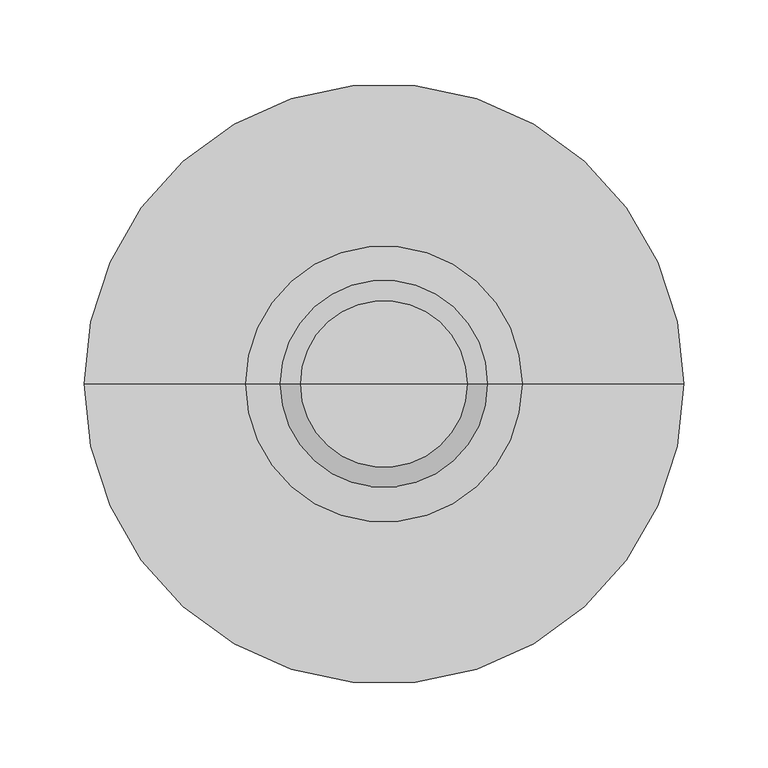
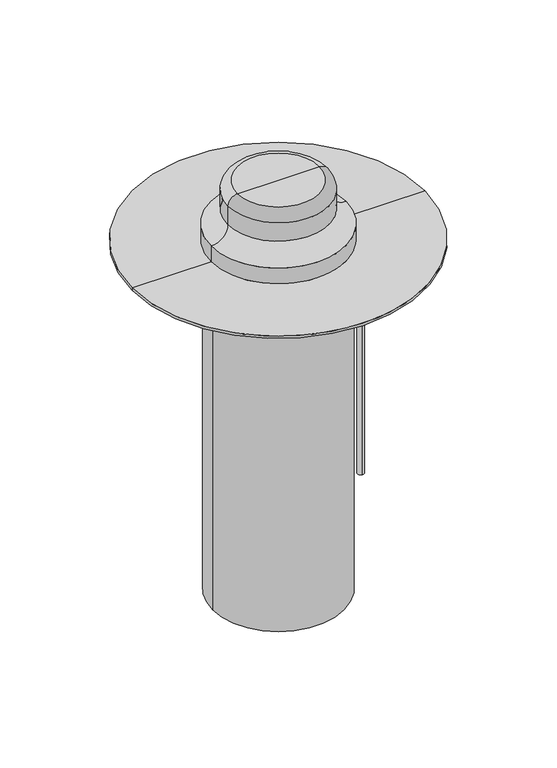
"""IFC4 building model written with IfcOpenShell, lengths in millimetres: flow terminal geometry, BIMLIB_Воронка_Кровельная_Fachmann_VMO : 160х450."""

from ifc_helpers import new_model, si_unit, point, frame, frame_2d, origin, origin_with_axes, place, context, project, spatial, polyline, circle_curve, ellipse_curve, trimmed, segment, composite_curve, outline, extrude, source, transform, mapped, element, save
from ifc_brep_helpers import plane_surface, cylinder_surface, revolved_surface, advanced_brep


def flow_terminal_25bab8c1(model_context):
    return source(origin(), model_context, "Body", "SolidModel", [
        extrude(outline(composite_curve([segment(trimmed(circle_curve(frame_2d((100.0, 0.0)), 4.0), [point((100.0, 4.0))], [point((100.0, -4.0))], False, "CARTESIAN"), True, "CONTINUOUS"), segment(trimmed(circle_curve(frame_2d((100.0, 0.0)), 4.0), [point((100.0, -4.0))], [point((100.0, 4.0))], False, "CARTESIAN"), True, "CONTINUOUS")], self_intersect=False)), frame((0.0, 0.0, -332.0), z_axis=(0.0, 0.0, 1.0), x_axis=(1.0, 0.0, 0.0)), (0.0, 0.0, 1.0), 300.0),
        advanced_brep(
        [(80.0, 0.0, -445.0), (-80.0, 0.0, -445.0), (-80.0, 0.0, -57.0), (80.0, 0.0, -57.0), (-113.0, 0.0, -9.0), (113.0, 0.0, -9.0), (113.0, 0.0, -32.0), (-113.0, 0.0, -32.0), (0.0, 0.0, 0.0), (138.0, 0.0, 0.0), (-138.0, 0.0, 0.0), (-90.0, 0.0, -32.0), (90.0, 0.0, -32.0), (90.0, 0.0, -40.0), (-90.0, 0.0, -40.0)],
        [
            (0, 1, circle_curve(frame((0.0, 0.0, -445.0), z_axis=(0.0, 0.0, -1.0), x_axis=(-1.0, 0.0, 0.0)), 80.0)),
            (1, 0, circle_curve(frame((0.0, 0.0, -445.0), z_axis=(0.0, 0.0, -1.0), x_axis=(-1.0, 0.0, 0.0)), 80.0)),
            (1, 2),
            (2, 3, circle_curve(frame((0.0, 0.0, -57.0), z_axis=(0.0, 0.0, -1.0), x_axis=(-1.0, 0.0, 0.0)), 80.0)),
            (3, 0),
            (3, 2, circle_curve(frame((0.0, 0.0, -57.0), z_axis=(0.0, 0.0, -1.0), x_axis=(-1.0, 0.0, 0.0)), 80.0)),
            (4, 5, circle_curve(frame((0.0, 0.0, -9.0), z_axis=(0.0, 0.0, -1.0), x_axis=(1.0, 0.0, 0.0)), 113.0)),
            (5, 6),
            (6, 7, circle_curve(frame((0.0, 0.0, -32.0), z_axis=(0.0, 0.0, 1.0), x_axis=(1.0, 0.0, 0.0)), 113.0)),
            (7, 4),
            (5, 4, circle_curve(frame((0.0, 0.0, -9.0), z_axis=(0.0, 0.0, -1.0), x_axis=(1.0, 0.0, 0.0)), 113.0)),
            (7, 6, circle_curve(frame((0.0, 0.0, -32.0), z_axis=(0.0, 0.0, 1.0), x_axis=(1.0, 0.0, 0.0)), 113.0)),
            (8, 9),
            (9, 10, circle_curve(origin_with_axes(), 138.0)),
            (10, 8),
            (10, 9, circle_curve(origin_with_axes(), 138.0)),
            (4, 10),
            (9, 5),
            (11, 12, circle_curve(frame((0.0, 0.0, -32.0), z_axis=(0.0, 0.0, -1.0), x_axis=(1.0, 0.0, 0.0)), 90.0)),
            (12, 13),
            (13, 14, circle_curve(frame((0.0, 0.0, -40.0), z_axis=(0.0, 0.0, 1.0), x_axis=(1.0, 0.0, 0.0)), 90.0)),
            (14, 11),
            (12, 11, circle_curve(frame((0.0, 0.0, -32.0), z_axis=(0.0, 0.0, -1.0), x_axis=(1.0, 0.0, 0.0)), 90.0)),
            (14, 13, circle_curve(frame((0.0, 0.0, -40.0), z_axis=(0.0, 0.0, 1.0), x_axis=(1.0, 0.0, 0.0)), 90.0)),
            (6, 12),
            (11, 7),
            (13, 3),
            (2, 14),
        ],
        [
            plane_surface(frame((-80.0, 0.0, -445.0), z_axis=(0.0, 0.0, -1.0), x_axis=(0.0, 1.0, 0.0))),
            cylinder_surface(frame((0.0, 0.0, -445.0), z_axis=(0.0, 0.0, 1.0), x_axis=(-1.0, 0.0, 0.0)), 80.0),
            cylinder_surface(frame((0.0, 0.0, 159.0), z_axis=(0.0, 0.0, 1.0), x_axis=(1.0, 0.0, 0.0)), 113.0),
            plane_surface(origin_with_axes()),
            revolved_surface(polyline([(113.0, 0.0, -9.0), (138.0, 0.0, 0.0)]), (0.0, 0.0, 159.0), (0.0, 0.0, 1.0)),
            cylinder_surface(frame((0.0, 0.0, 159.0), z_axis=(0.0, 0.0, 1.0), x_axis=(1.0, 0.0, 0.0)), 90.0),
            plane_surface(frame((0.0, 0.0, -32.0), z_axis=(0.0, 0.0, -1.0), x_axis=(1.0, 0.0, 0.0))),
            revolved_surface(polyline([(80.0, 0.0, -57.0), (90.0, 0.0, -40.0)]), (0.0, 0.0, 159.0), (0.0, 0.0, 1.0)),
        ],
        [
            (0, [[1, 2]]),
            (1, [[-2, 3, 4, 5]]),
            (1, [[-1, -5, 6, -3]]),
            (2, [[7, 8, 9, 10]]),
            (2, [[-8, 11, -10, 12]]),
            (3, [[13, 14, 15]]),
            (3, [[-13, -15, 16]]),
            (4, [[-7, 17, -14, 18]]),
            (4, [[-11, -18, -16, -17]]),
            (5, [[19, 20, 21, 22]]),
            (5, [[-20, 23, -22, 24]]),
            (6, [[-9, 25, -19, 26]]),
            (6, [[-12, -26, -23, -25]]),
            (7, [[-21, 27, -4, 28]]),
            (7, [[-24, -28, -6, -27]]),
        ],
    ),
        advanced_brep(
        [(0.0, 0.0, 79.0), (49.5, 0.0, 79.0), (-49.5, 0.0, 79.0), (-178.0, 0.0, 0.0), (178.0, 0.0, 0.0), (0.0, 0.0, 0.0), (-178.0, 0.0, 3.0), (178.0, 0.0, 3.0), (-82.0, 0.0, 3.0), (82.0, 0.0, 3.0), (-61.5, 0.0, 67.0), (61.5, 0.0, 67.0), (61.5, 0.0, 43.5), (-61.5, 0.0, 43.5), (-82.0, 0.0, 23.0), (82.0, 0.0, 23.0)],
        [
            (0, 1),
            (1, 2, circle_curve(frame((0.0, 0.0, 79.0), z_axis=(0.0, 0.0, 1.0), x_axis=(1.0, 0.0, 0.0)), 49.5)),
            (2, 0),
            (2, 1, circle_curve(frame((0.0, 0.0, 79.0), z_axis=(0.0, 0.0, 1.0), x_axis=(1.0, 0.0, 0.0)), 49.5)),
            (3, 4, circle_curve(frame((0.0, 0.0, 0.0), z_axis=(0.0, 0.0, -1.0), x_axis=(1.0, 0.0, 0.0)), 178.0)),
            (4, 5),
            (5, 3),
            (4, 3, circle_curve(frame((0.0, 0.0, 0.0), z_axis=(0.0, 0.0, -1.0), x_axis=(1.0, 0.0, 0.0)), 178.0)),
            (6, 7, circle_curve(frame((0.0, 0.0, 3.0), z_axis=(0.0, 0.0, -1.0), x_axis=(1.0, 0.0, 0.0)), 178.0)),
            (7, 4),
            (3, 6),
            (7, 6, circle_curve(frame((0.0, 0.0, 3.0), z_axis=(0.0, 0.0, -1.0), x_axis=(1.0, 0.0, 0.0)), 178.0)),
            (8, 9, circle_curve(frame((0.0, 0.0, 3.0), z_axis=(0.0, 0.0, -1.0), x_axis=(1.0, 0.0, 0.0)), 82.0)),
            (9, 7),
            (6, 8),
            (9, 8, circle_curve(frame((0.0, 0.0, 3.0), z_axis=(0.0, 0.0, -1.0), x_axis=(1.0, 0.0, 0.0)), 82.0)),
            (10, 11, circle_curve(frame((0.0, 0.0, 67.0), z_axis=(0.0, 0.0, -1.0), x_axis=(1.0, 0.0, 0.0)), 61.5)),
            (11, 12),
            (12, 13, circle_curve(frame((0.0, 0.0, 43.5), z_axis=(0.0, 0.0, 1.0), x_axis=(1.0, 0.0, 0.0)), 61.5)),
            (13, 10),
            (11, 10, circle_curve(frame((0.0, 0.0, 67.0), z_axis=(0.0, 0.0, -1.0), x_axis=(1.0, 0.0, 0.0)), 61.5)),
            (13, 12, circle_curve(frame((0.0, 0.0, 43.5), z_axis=(0.0, 0.0, 1.0), x_axis=(1.0, 0.0, 0.0)), 61.5)),
            (1, 11, circle_curve(frame((49.5, 0.0, 67.0), z_axis=(0.0, 1.0, 0.0), x_axis=(1.0, 0.0, 0.0)), 12.0)),
            (10, 2, circle_curve(frame((-49.5, 0.0, 67.0), z_axis=(0.0, 1.0, 0.0), x_axis=(-1.0, 0.0, 0.0)), 12.0)),
            (14, 15, circle_curve(frame((0.0, 0.0, 23.0), z_axis=(0.0, 0.0, -1.0), x_axis=(1.0, 0.0, 0.0)), 82.0)),
            (15, 9),
            (8, 14),
            (15, 14, circle_curve(frame((0.0, 0.0, 23.0), z_axis=(0.0, 0.0, -1.0), x_axis=(1.0, 0.0, 0.0)), 82.0)),
            (12, 15, circle_curve(frame((82.0, 0.0, 43.5), z_axis=(0.0, -1.0, 0.0), x_axis=(1.0, 0.0, 0.0)), 20.5)),
            (14, 13, circle_curve(frame((-82.0, 0.0, 43.5), z_axis=(0.0, -1.0, 0.0), x_axis=(-1.0, 0.0, 0.0)), 20.5)),
        ],
        [
            plane_surface(frame((0.0, 0.0, 79.0), z_axis=(0.0, 0.0, 1.0), x_axis=(1.0, 0.0, 0.0))),
            plane_surface(frame((0.0, 0.0, 0.0), z_axis=(0.0, 0.0, -1.0), x_axis=(1.0, 0.0, 0.0))),
            cylinder_surface(frame((0.0, 0.0, 229.0), z_axis=(0.0, 0.0, 1.0), x_axis=(1.0, 0.0, 0.0)), 178.0),
            plane_surface(frame((0.0, 0.0, 3.0), z_axis=(0.0, 0.0, 1.0), x_axis=(1.0, 0.0, 0.0))),
            cylinder_surface(frame((0.0, 0.0, 229.0), z_axis=(0.0, 0.0, 1.0), x_axis=(1.0, 0.0, 0.0)), 61.5),
            revolved_surface(trimmed(ellipse_curve(frame((49.5, 0.0, 67.0), z_axis=(0.0, -1.0, 0.0), x_axis=(1.0, 0.0, 0.0)), 12.0, 12.0), [point((61.5, 0.0, 67.0))], [point((49.5, 0.0, 79.0))], True, "CARTESIAN"), (0.0, 0.0, 229.0), (0.0, 0.0, 1.0)),
            cylinder_surface(frame((0.0, 0.0, 229.0), z_axis=(0.0, 0.0, 1.0), x_axis=(1.0, 0.0, 0.0)), 82.0),
            revolved_surface(trimmed(ellipse_curve(frame((82.0, 0.0, 43.5), z_axis=(0.0, 1.0, 0.0), x_axis=(1.0, 0.0, 0.0)), 20.5, 20.5), [point((82.0, 0.0, 23.0))], [point((61.5, 0.0, 43.5))], True, "CARTESIAN"), (0.0, 0.0, 229.0), (0.0, 0.0, 1.0)),
        ],
        [
            (0, [[1, 2, 3]]),
            (0, [[-3, 4, -1]]),
            (1, [[5, 6, 7]]),
            (1, [[8, -7, -6]]),
            (2, [[9, 10, -5, 11]]),
            (2, [[12, -11, -8, -10]]),
            (3, [[13, 14, -9, 15]]),
            (3, [[16, -15, -12, -14]]),
            (4, [[17, 18, 19, 20]]),
            (4, [[21, -20, 22, -18]]),
            (5, [[-2, 23, -17, 24]]),
            (5, [[-4, -24, -21, -23]]),
            (6, [[25, 26, -13, 27]]),
            (6, [[28, -27, -16, -26]]),
            (7, [[-19, 29, -25, 30]]),
            (7, [[-22, -30, -28, -29]]),
        ],
    ),
    ])


if __name__ == "__main__":
    model = new_model("IFC4")
    model_context = context("Model", 3, world=origin())
    ifc_project = project(units=[si_unit("LENGTHUNIT", "METRE", prefix="MILLI")], contexts=[model_context])
    site = spatial("IfcSite", under=ifc_project)
    building = spatial("IfcBuilding", under=site)
    placement = place(None, origin())
    flow_terminal_shape = flow_terminal_25bab8c1(model_context)
    element("IfcFlowTerminal", 1, ObjectType="BIMLIB_Воронка_Кровельная_Fachmann_VMO : 160х450", at=placement, inside=building, context=model_context, shape_type="MappedRepresentation", body=[
        mapped(flow_terminal_shape, transform((0.0, 0.0, 0.0), x_axis=(1.0, 0.0, 0.0), y_axis=(0.0, 1.0, 0.0), z_axis=(0.0, 0.0, 1.0))),
    ])
    save(model, "model.ifc")
